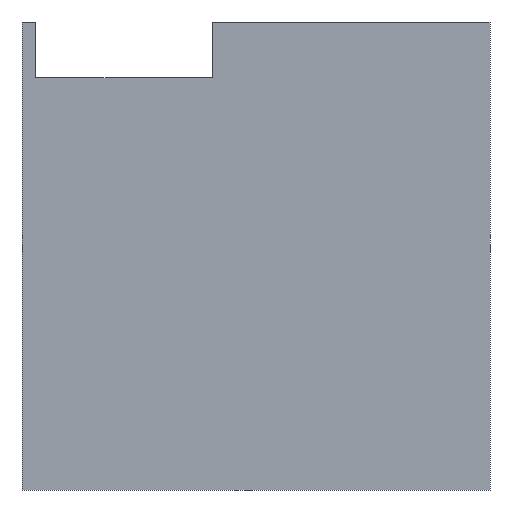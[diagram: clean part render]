
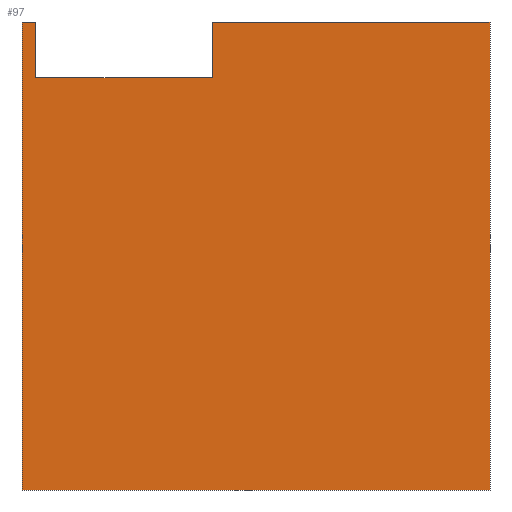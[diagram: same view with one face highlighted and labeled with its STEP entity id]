
A CAD part, front view. The second image highlights one B-rep face of the part: STEP entity #97.
In plain terms, the highlighted planar face has unit normal (0, -1, 0).
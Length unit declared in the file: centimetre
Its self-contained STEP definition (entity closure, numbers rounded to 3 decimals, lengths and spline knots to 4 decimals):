
#4 = DIRECTION ( 'NONE',  ( 1., 0., 0. ) ) ;
#20 = DIRECTION ( 'NONE',  ( 0., 1., 0. ) ) ;
#22 = ORIENTED_EDGE ( 'NONE', *, *, #686, .F. ) ;
#25 = VERTEX_POINT ( 'NONE', #575 ) ;
#35 = LINE ( 'NONE', #382, #558 ) ;
#36 = ORIENTED_EDGE ( 'NONE', *, *, #213, .F. ) ;
#40 = ORIENTED_EDGE ( 'NONE', *, *, #438, .T. ) ;
#43 = VECTOR ( 'NONE', #355, 100. ) ;
#63 = VERTEX_POINT ( 'NONE', #616 ) ;
#70 = CARTESIAN_POINT ( 'NONE',  ( 0., 0., 0. ) ) ;
#84 = DIRECTION ( 'NONE',  ( 0., 0., 1. ) ) ;
#97 = ADVANCED_FACE ( 'NONE', ( #489 ), #367, .F. ) ;
#117 = CARTESIAN_POINT ( 'NONE',  ( 0., 0., 1000. ) ) ;
#149 = CARTESIAN_POINT ( 'NONE',  ( 0., 0., 1000. ) ) ;
#155 = DIRECTION ( 'NONE',  ( 0., 0., 1. ) ) ;
#160 = CARTESIAN_POINT ( 'NONE',  ( 1000., 0., 1000. ) ) ;
#176 = LINE ( 'NONE', #226, #582 ) ;
#179 = VECTOR ( 'NONE', #306, 100. ) ;
#183 = EDGE_CURVE ( 'NONE', #63, #330, #402, .T. ) ;
#186 = CARTESIAN_POINT ( 'NONE',  ( 0., 0., 1000. ) ) ;
#187 = CARTESIAN_POINT ( 'NONE',  ( 407.282, 0., 881.286 ) ) ;
#190 = ORIENTED_EDGE ( 'NONE', *, *, #550, .T. ) ;
#213 = EDGE_CURVE ( 'NONE', #25, #659, #286, .T. ) ;
#216 = LINE ( 'NONE', #590, #698 ) ;
#217 = VERTEX_POINT ( 'NONE', #241 ) ;
#221 = EDGE_CURVE ( 'NONE', #217, #545, #465, .T. ) ;
#226 = CARTESIAN_POINT ( 'NONE',  ( 0., 0., 1000. ) ) ;
#241 = CARTESIAN_POINT ( 'NONE',  ( 0., 0., 1000. ) ) ;
#272 = DIRECTION ( 'NONE',  ( 0., 0., -1. ) ) ;
#283 = VECTOR ( 'NONE', #471, 100. ) ;
#286 = LINE ( 'NONE', #117, #680 ) ;
#290 = ORIENTED_EDGE ( 'NONE', *, *, #183, .T. ) ;
#306 = DIRECTION ( 'NONE',  ( 0., 0., -1. ) ) ;
#326 = VERTEX_POINT ( 'NONE', #541 ) ;
#330 = VERTEX_POINT ( 'NONE', #528 ) ;
#355 = DIRECTION ( 'NONE',  ( 0., 0., -1. ) ) ;
#367 = PLANE ( 'NONE',  #416 ) ;
#370 = VERTEX_POINT ( 'NONE', #451 ) ;
#382 = CARTESIAN_POINT ( 'NONE',  ( 1000., 0., 1000. ) ) ;
#402 = LINE ( 'NONE', #621, #646 ) ;
#403 = CARTESIAN_POINT ( 'NONE',  ( 0., 0., 0. ) ) ;
#407 = DIRECTION ( 'NONE',  ( -1., 0., 0. ) ) ;
#415 = LINE ( 'NONE', #70, #283 ) ;
#416 = AXIS2_PLACEMENT_3D ( 'NONE', #149, #20, #84 ) ;
#438 = EDGE_CURVE ( 'NONE', #545, #370, #415, .T. ) ;
#451 = CARTESIAN_POINT ( 'NONE',  ( 1000., 0., 0. ) ) ;
#465 = LINE ( 'NONE', #186, #43 ) ;
#466 = DIRECTION ( 'NONE',  ( 1., 0., 0. ) ) ;
#471 = DIRECTION ( 'NONE',  ( 1., 0., 0. ) ) ;
#489 = FACE_OUTER_BOUND ( 'NONE', #714, .T. ) ;
#519 = ORIENTED_EDGE ( 'NONE', *, *, #559, .F. ) ;
#528 = CARTESIAN_POINT ( 'NONE',  ( 29.0796, 0., 881.286 ) ) ;
#539 = ORIENTED_EDGE ( 'NONE', *, *, #221, .T. ) ;
#541 = CARTESIAN_POINT ( 'NONE',  ( 29.0796, 0., 1000. ) ) ;
#545 = VERTEX_POINT ( 'NONE', #403 ) ;
#550 = EDGE_CURVE ( 'NONE', #25, #63, #662, .T. ) ;
#558 = VECTOR ( 'NONE', #272, 100. ) ;
#559 = EDGE_CURVE ( 'NONE', #217, #326, #176, .T. ) ;
#575 = CARTESIAN_POINT ( 'NONE',  ( 407.282, 0., 1000. ) ) ;
#582 = VECTOR ( 'NONE', #466, 100. ) ;
#590 = CARTESIAN_POINT ( 'NONE',  ( 29.0796, 0., 881.286 ) ) ;
#616 = CARTESIAN_POINT ( 'NONE',  ( 407.282, 0., 881.286 ) ) ;
#621 = CARTESIAN_POINT ( 'NONE',  ( 29.0796, 0., 881.286 ) ) ;
#646 = VECTOR ( 'NONE', #407, 100. ) ;
#659 = VERTEX_POINT ( 'NONE', #160 ) ;
#661 = EDGE_CURVE ( 'NONE', #330, #326, #216, .T. ) ;
#662 = LINE ( 'NONE', #187, #179 ) ;
#664 = ORIENTED_EDGE ( 'NONE', *, *, #661, .T. ) ;
#680 = VECTOR ( 'NONE', #4, 100. ) ;
#686 = EDGE_CURVE ( 'NONE', #659, #370, #35, .T. ) ;
#698 = VECTOR ( 'NONE', #155, 100. ) ;
#714 = EDGE_LOOP ( 'NONE', ( #290, #664, #519, #539, #40, #22, #36, #190 ) ) ;
